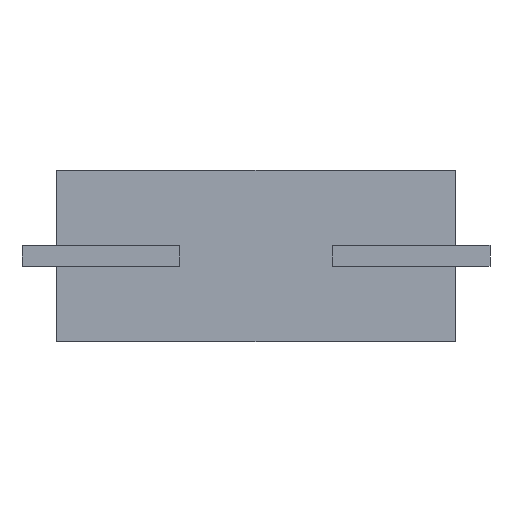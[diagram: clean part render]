
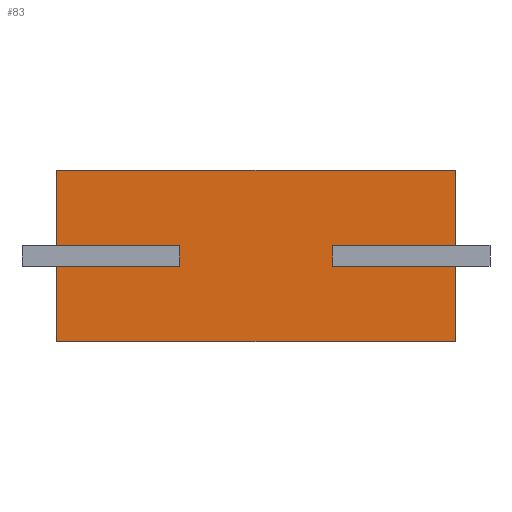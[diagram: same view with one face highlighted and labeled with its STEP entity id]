
A CAD part, top view. The second image highlights one B-rep face of the part: STEP entity #83.
In plain terms, the highlighted planar face has unit normal (0, 0, 1).
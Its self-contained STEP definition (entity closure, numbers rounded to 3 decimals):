
#26=VERTEX_POINT('',#27);
#27=CARTESIAN_POINT('',(-5.7,0.3,0.0));
#33=EDGE_CURVE('',#26,#34,#36,.F.);
#34=VERTEX_POINT('',#35);
#35=CARTESIAN_POINT('',(-5.7,2.45,0.0));
#36=LINE('',#37,#38);
#37=CARTESIAN_POINT('',(-5.7,2.45,0.0));
#38=VECTOR('',#39,1.0);
#39=DIRECTION('',(0.0,-1.0,0.0));
#58=VERTEX_POINT('',#59);
#59=CARTESIAN_POINT('',(-5.7,-2.45,0.0));
#65=EDGE_CURVE('',#58,#66,#68,.F.);
#66=VERTEX_POINT('',#67);
#67=CARTESIAN_POINT('',(-5.7,-0.3,0.0));
#68=LINE('',#69,#70);
#69=CARTESIAN_POINT('',(-5.7,2.45,0.0));
#70=VECTOR('',#71,1.0);
#71=DIRECTION('',(0.0,-1.0,0.0));
#83=ADVANCED_FACE('',(#84),#164,.T.);
#84=FACE_BOUND('',#85,.T.);
#85=EDGE_LOOP('',(#86,#87,#95,#103,#109,#110,#118,#126,#134,#142,#150,#158));
#86=ORIENTED_EDGE('',*,*,#33,.F.);
#87=ORIENTED_EDGE('',*,*,#88,.T.);
#88=EDGE_CURVE('',#26,#89,#91,.T.);
#89=VERTEX_POINT('',#90);
#90=CARTESIAN_POINT('',(-2.2,0.3,0.0));
#91=LINE('',#92,#93);
#92=CARTESIAN_POINT('',(0.,0.3,0.0));
#93=VECTOR('',#94,1.0);
#94=DIRECTION('',(1.0,0.,0.0));
#95=ORIENTED_EDGE('',*,*,#96,.T.);
#96=EDGE_CURVE('',#89,#97,#99,.T.);
#97=VERTEX_POINT('',#98);
#98=CARTESIAN_POINT('',(-2.2,-0.3,0.0));
#99=LINE('',#100,#101);
#100=CARTESIAN_POINT('',(-2.2,0.0,0.0));
#101=VECTOR('',#102,1.0);
#102=DIRECTION('',(0.0,-1.0,0.0));
#103=ORIENTED_EDGE('',*,*,#104,.T.);
#104=EDGE_CURVE('',#97,#66,#105,.T.);
#105=LINE('',#106,#107);
#106=CARTESIAN_POINT('',(0.,-0.3,0.0));
#107=VECTOR('',#108,1.0);
#108=DIRECTION('',(-1.0,0.,0.0));
#109=ORIENTED_EDGE('',*,*,#65,.F.);
#110=ORIENTED_EDGE('',*,*,#111,.T.);
#111=EDGE_CURVE('',#58,#112,#114,.T.);
#112=VERTEX_POINT('',#113);
#113=CARTESIAN_POINT('',(5.7,-2.45,0.0));
#114=LINE('',#115,#116);
#115=CARTESIAN_POINT('',(-5.7,-2.45,0.0));
#116=VECTOR('',#117,1.0);
#117=DIRECTION('',(1.0,0.0,0.0));
#118=ORIENTED_EDGE('',*,*,#119,.T.);
#119=EDGE_CURVE('',#112,#120,#122,.T.);
#120=VERTEX_POINT('',#121);
#121=CARTESIAN_POINT('',(5.7,-0.3,0.0));
#122=LINE('',#123,#124);
#123=CARTESIAN_POINT('',(5.7,-2.45,0.0));
#124=VECTOR('',#125,1.0);
#125=DIRECTION('',(0.0,1.0,0.0));
#126=ORIENTED_EDGE('',*,*,#127,.T.);
#127=EDGE_CURVE('',#120,#128,#130,.F.);
#128=VERTEX_POINT('',#129);
#129=CARTESIAN_POINT('',(2.2,-0.3,0.0));
#130=LINE('',#131,#132);
#131=CARTESIAN_POINT('',(0.,-0.3,0.0));
#132=VECTOR('',#133,1.0);
#133=DIRECTION('',(1.0,0.,0.0));
#134=ORIENTED_EDGE('',*,*,#135,.T.);
#135=EDGE_CURVE('',#128,#136,#138,.F.);
#136=VERTEX_POINT('',#137);
#137=CARTESIAN_POINT('',(2.2,0.3,0.0));
#138=LINE('',#139,#140);
#139=CARTESIAN_POINT('',(2.2,0.0,0.0));
#140=VECTOR('',#141,1.0);
#141=DIRECTION('',(0.0,-1.0,0.0));
#142=ORIENTED_EDGE('',*,*,#143,.T.);
#143=EDGE_CURVE('',#136,#144,#146,.F.);
#144=VERTEX_POINT('',#145);
#145=CARTESIAN_POINT('',(5.7,0.3,0.0));
#146=LINE('',#147,#148);
#147=CARTESIAN_POINT('',(0.,0.3,0.0));
#148=VECTOR('',#149,1.0);
#149=DIRECTION('',(-1.0,0.,0.0));
#150=ORIENTED_EDGE('',*,*,#151,.T.);
#151=EDGE_CURVE('',#144,#152,#154,.T.);
#152=VERTEX_POINT('',#153);
#153=CARTESIAN_POINT('',(5.7,2.45,0.0));
#154=LINE('',#155,#156);
#155=CARTESIAN_POINT('',(5.7,-2.45,0.0));
#156=VECTOR('',#157,1.0);
#157=DIRECTION('',(0.0,1.0,0.0));
#158=ORIENTED_EDGE('',*,*,#159,.T.);
#159=EDGE_CURVE('',#152,#34,#160,.T.);
#160=LINE('',#161,#162);
#161=CARTESIAN_POINT('',(5.7,2.45,0.0));
#162=VECTOR('',#163,1.0);
#163=DIRECTION('',(-1.0,0.0,0.0));
#164=PLANE('',#165);
#165=AXIS2_PLACEMENT_3D('',#166,#167,#168);
#166=CARTESIAN_POINT('',(0.0,0.0,0.0));
#167=DIRECTION('',(0.0,0.0,1.0));
#168=DIRECTION('',(1.0,0.0,0.0));
